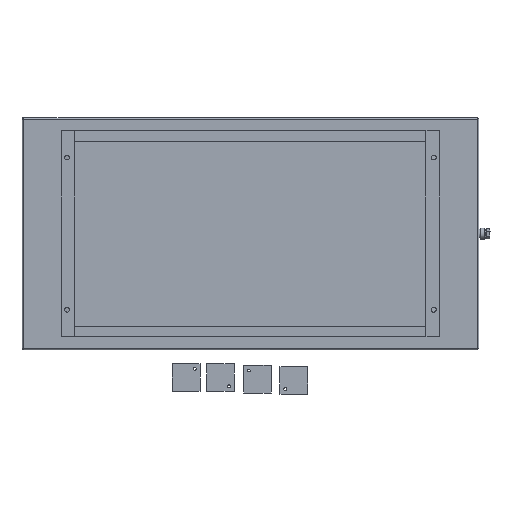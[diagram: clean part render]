
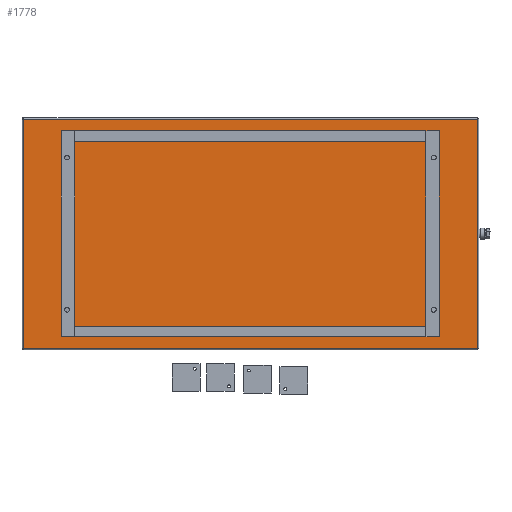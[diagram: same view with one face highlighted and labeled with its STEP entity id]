
A CAD part, front view. The second image highlights one B-rep face of the part: STEP entity #1778.
In plain terms, the highlighted planar face has unit normal (0, -1, 0).
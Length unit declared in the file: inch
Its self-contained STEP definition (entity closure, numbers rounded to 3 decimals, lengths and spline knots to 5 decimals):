
#7 = CARTESIAN_POINT ( 'NONE',  ( 0.197, -0.1345, -33.303 ) ) ;
#216 = ORIENTED_EDGE ( 'NONE', *, *, #2377, .T. ) ;
#305 = CARTESIAN_POINT ( 'NONE',  ( 0.13457, -0.1345, -33.303 ) ) ;
#494 = ORIENTED_EDGE ( 'NONE', *, *, #1542, .T. ) ;
#518 = DIRECTION ( 'NONE',  ( -1., 0., 0. ) ) ;
#683 = VERTEX_POINT ( 'NONE', #2203 ) ;
#864 = VECTOR ( 'NONE', #2413, 39.37008 ) ;
#1032 = LINE ( 'NONE', #1675, #3065 ) ;
#1075 = EDGE_LOOP ( 'NONE', ( #1634, #216, #494, #1366 ) ) ;
#1230 = LINE ( 'NONE', #305, #1631 ) ;
#1235 = LINE ( 'NONE', #2628, #864 ) ;
#1263 = LINE ( 'NONE', #2439, #1320 ) ;
#1278 = DIRECTION ( 'NONE',  ( 0., -1., 0. ) ) ;
#1297 = DIRECTION ( 'NONE',  ( 0., 0., -1. ) ) ;
#1320 = VECTOR ( 'NONE', #3007, 39.37008 ) ;
#1366 = ORIENTED_EDGE ( 'NONE', *, *, #3759, .T. ) ;
#1463 = DIRECTION ( 'NONE',  ( 1., 0., 0. ) ) ;
#1542 = EDGE_CURVE ( 'NONE', #2339, #2993, #1032, .T. ) ;
#1590 = FACE_OUTER_BOUND ( 'NONE', #1075, .T. ) ;
#1631 = VECTOR ( 'NONE', #1463, 39.37008 ) ;
#1634 = ORIENTED_EDGE ( 'NONE', *, *, #3616, .T. ) ;
#1675 = CARTESIAN_POINT ( 'NONE',  ( 65.86543, -0.1345, -0.197 ) ) ;
#1760 = CARTESIAN_POINT ( 'NONE',  ( 65.803, -0.1345, -0.197 ) ) ;
#1778 = ADVANCED_FACE ( 'NONE', ( #1590 ), #1875, .T. ) ;
#1875 = PLANE ( 'NONE',  #2269 ) ;
#2203 = CARTESIAN_POINT ( 'NONE',  ( 65.803, -0.1345, -33.303 ) ) ;
#2269 = AXIS2_PLACEMENT_3D ( 'NONE', #3328, #1278, #1297 ) ;
#2339 = VERTEX_POINT ( 'NONE', #1760 ) ;
#2377 = EDGE_CURVE ( 'NONE', #683, #2339, #1235, .T. ) ;
#2413 = DIRECTION ( 'NONE',  ( 0., 0., 1. ) ) ;
#2439 = CARTESIAN_POINT ( 'NONE',  ( 0.197, -0.1345, -0.13457 ) ) ;
#2628 = CARTESIAN_POINT ( 'NONE',  ( 65.803, -0.1345, -33.36543 ) ) ;
#2773 = CARTESIAN_POINT ( 'NONE',  ( 0.197, -0.1345, -0.197 ) ) ;
#2993 = VERTEX_POINT ( 'NONE', #2773 ) ;
#3007 = DIRECTION ( 'NONE',  ( 0., 0., -1. ) ) ;
#3065 = VECTOR ( 'NONE', #518, 39.37008 ) ;
#3328 = CARTESIAN_POINT ( 'NONE',  ( 0., -0.1345, 0. ) ) ;
#3603 = VERTEX_POINT ( 'NONE', #7 ) ;
#3616 = EDGE_CURVE ( 'NONE', #3603, #683, #1230, .T. ) ;
#3759 = EDGE_CURVE ( 'NONE', #2993, #3603, #1263, .T. ) ;
